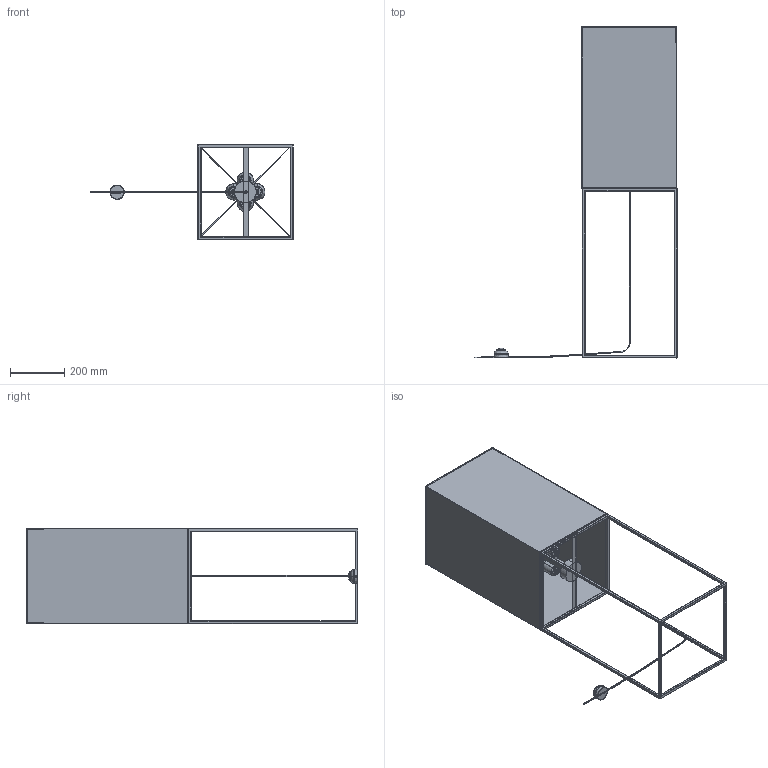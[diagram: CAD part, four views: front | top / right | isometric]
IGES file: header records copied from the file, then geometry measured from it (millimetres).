
Start section: SolidWorks IGES file using analytic representation for surfaces
Global section: file name: E:\3D lampy\Flam\Flam_9731\Flam_9731.IGS; native system: SolidWorks 2016; preprocessor: SolidWorks 2016; author: Asia; date: 170928.130815; units: millimetre
Bounding box: 746.59 x 1224.21 x 351.17 mm (x, y, z)
Surface area: 2236831.8 mm2 (no closed solid volume)
Topology: 0 solids, 0 shells, 1299 faces, 16642 edges, 16540 vertices
Faces by surface type: bspline 721, revolution 578
